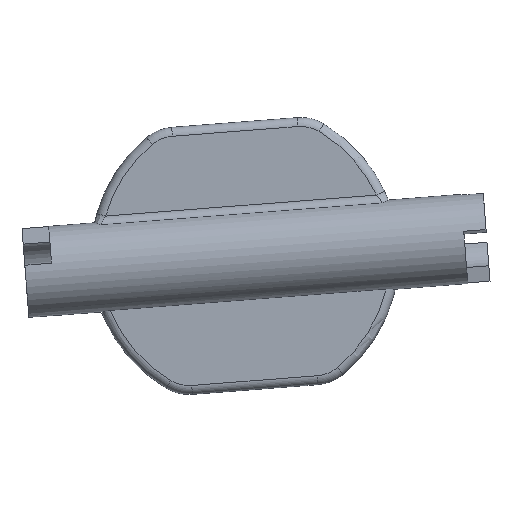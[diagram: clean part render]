
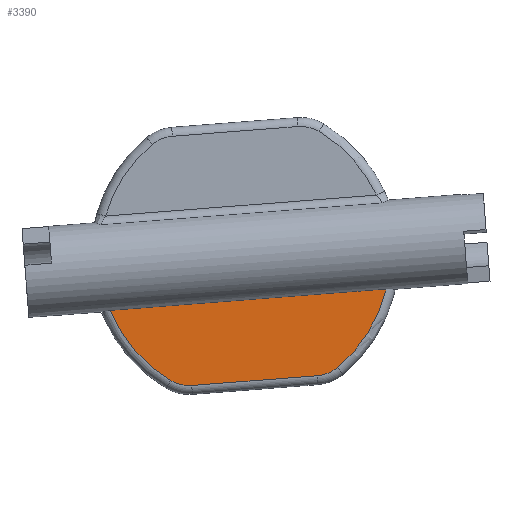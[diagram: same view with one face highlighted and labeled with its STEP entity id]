
A CAD part, front view. The second image highlights one B-rep face of the part: STEP entity #3390.
In plain terms, the highlighted planar face has unit normal (0, -1, 0).
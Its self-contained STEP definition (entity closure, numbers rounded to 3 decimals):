
#1061=CARTESIAN_POINT('',(1007.,-1.,-109.669));
#1062=DIRECTION('',(0.,1.,0.));
#1063=DIRECTION('',(-0.512,0.,-0.859));
#1064=AXIS2_PLACEMENT_3D('',#1061,#1062,#1063);
#1066=DIRECTION('',(-0.997,0.,-0.077));
#1067=VECTOR('',#1066,30.925);
#1068=CARTESIAN_POINT('',(1022.795,-1.,-113.359));
#1069=LINE('',#1068,#1067);
#1070=CARTESIAN_POINT('',(1007.,-1.,-109.669));
#1071=DIRECTION('',(0.,1.,0.));
#1072=DIRECTION('',(0.974,0.,-0.227));
#1073=AXIS2_PLACEMENT_3D('',#1070,#1071,#1072);
#1075=CARTESIAN_POINT('',(1014.8,-1.,-119.076));
#1076=DIRECTION('',(0.,1.,0.));
#1077=DIRECTION('',(0.638,0.,-0.77));
#1078=AXIS2_PLACEMENT_3D('',#1075,#1076,#1077);
#1080=DIRECTION('',(-0.997,0.,-0.077));
#1081=VECTOR('',#1080,14.1);
#1082=CARTESIAN_POINT('',(1015.109,-1.,-123.064));
#1083=LINE('',#1082,#1081);
#1084=CARTESIAN_POINT('',(1000.742,-1.,-120.165));
#1085=DIRECTION('',(0.,1.,0.));
#1086=DIRECTION('',(0.077,0.,-0.997));
#1087=AXIS2_PLACEMENT_3D('',#1084,#1085,#1086);
#1678=CARTESIAN_POINT('',(998.694,-1.,-123.601));
#1679=CARTESIAN_POINT('',(991.962,-1.,-115.748));
#1680=VERTEX_POINT('',#1678);
#1681=VERTEX_POINT('',#1679);
#1686=CARTESIAN_POINT('',(1001.051,-1.,-124.153));
#1687=VERTEX_POINT('',#1686);
#1688=CARTESIAN_POINT('',(1015.109,-1.,-123.064));
#1689=VERTEX_POINT('',#1688);
#1690=CARTESIAN_POINT('',(1017.353,-1.,-122.155));
#1691=VERTEX_POINT('',#1690);
#1696=CARTESIAN_POINT('',(1022.795,-1.,-113.359));
#1697=VERTEX_POINT('',#1696);
#3371=CARTESIAN_POINT('',(0.,-1.,0.));
#3372=DIRECTION('',(0.,-1.,0.));
#3373=DIRECTION('',(1.,0.,0.));
#3374=AXIS2_PLACEMENT_3D('',#3371,#3372,#3373);
#3375=PLANE('',#3374);
#3377=ORIENTED_EDGE('',*,*,#3376,.T.);
#3379=ORIENTED_EDGE('',*,*,#3378,.F.);
#3381=ORIENTED_EDGE('',*,*,#3380,.T.);
#3383=ORIENTED_EDGE('',*,*,#3382,.T.);
#3385=ORIENTED_EDGE('',*,*,#3384,.T.);
#3387=ORIENTED_EDGE('',*,*,#3386,.T.);
#3388=EDGE_LOOP('',(#3377,#3379,#3381,#3383,#3385,#3387));
#3389=FACE_OUTER_BOUND('',#3388,.F.);
#3390=ADVANCED_FACE('',(#3389),#3375,.T.);
#1065=CIRCLE('',#1064,16.22);
#1074=CIRCLE('',#1073,16.22);
#1079=CIRCLE('',#1078,4.);
#1088=CIRCLE('',#1087,4.);
#3376=EDGE_CURVE('',#1680,#1681,#1065,.T.);
#3378=EDGE_CURVE('',#1697,#1681,#1069,.T.);
#3380=EDGE_CURVE('',#1697,#1691,#1074,.T.);
#3382=EDGE_CURVE('',#1691,#1689,#1079,.T.);
#3384=EDGE_CURVE('',#1689,#1687,#1083,.T.);
#3386=EDGE_CURVE('',#1687,#1680,#1088,.T.);
